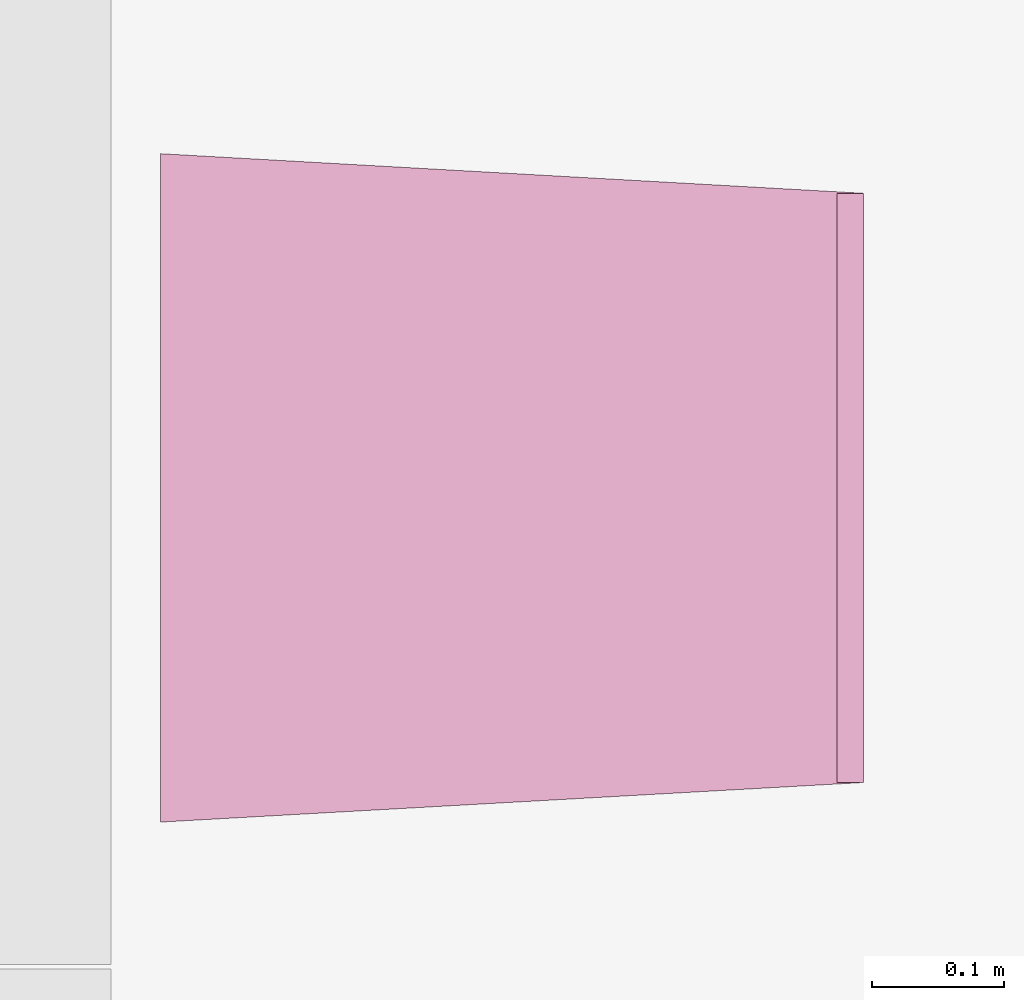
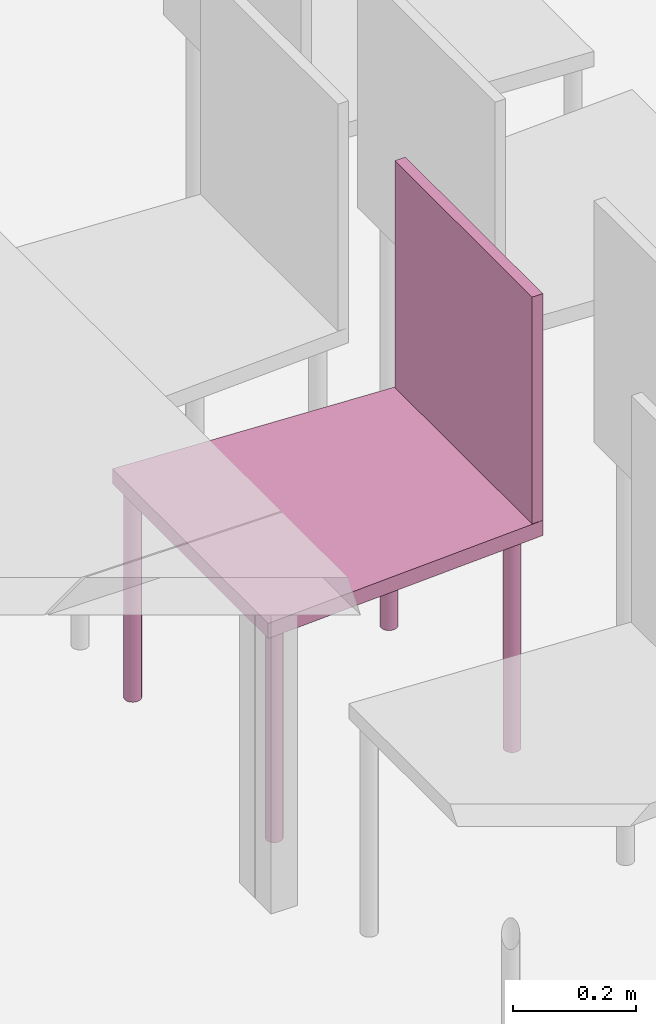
"""IFC4 building model written with IfcOpenShell, lengths in metres."""

import ifcopenshell
import ifcopenshell.guid

model = None  # the IFC model being written
_history = None  # IfcOwnerHistory: only IFC2X3 demands one
_inside = {}  # id of a spatial element -> (the spatial element, [elements in it])
_under = {}  # id of a project, library or spatial element -> (it, [spatial elements below it])
_declared = {}  # id of a project -> (the project, [libraries it declares])
_typed = {}  # id of a type object -> (the type object, [elements of that type])
_made_of = {}  # id of a material, layer set ... -> (it, [elements and type objects made of it])


def new_model(schema):
    """Start an empty IFC model of exactly this schema.

    Asked for "IFC4X3", IfcOpenShell would pick the latest addendum, in which some entities
    have other attributes; the version numbers below select the first issue.
    IFC2X3 requires an IfcOwnerHistory on every rooted entity: one is made here for all.
    """
    global model, _history
    if schema == "IFC4X3":
        model = ifcopenshell.file(schema_version=(4, 3, 0, 0))
    else:
        model = ifcopenshell.file(schema=schema)
    _inside.clear()
    _under.clear()
    _declared.clear()
    _typed.clear()
    _made_of.clear()
    _history = None
    if model.schema == "IFC2X3":
        org = make("IfcOrganization", Name="unknown")
        user = make(
            "IfcPersonAndOrganization",
            ThePerson=make("IfcPerson", FamilyName="unknown"),
            TheOrganization=org,
        )
        app = make(
            "IfcApplication",
            ApplicationDeveloper=org,
            Version="unknown",
            ApplicationFullName="unknown",
            ApplicationIdentifier="unknown",
        )
        _history = make(
            "IfcOwnerHistory",
            OwningUser=user,
            OwningApplication=app,
            ChangeAction="ADDED",
            CreationDate=0,
        )
    return model


def make(cls, **values):
    """One entity of the class cls with the attributes given. An attribute that is None is left unset."""
    return model.create_entity(
        cls, **{name: value for name, value in values.items() if value is not None}
    )


def entity(cls, *values):
    """Any entity or typed value of the class cls, its attributes in the order of the schema. None: left unset."""
    e = model.create_entity(cls)
    for i, value in enumerate(values):
        if value is not None:
            e[i] = value
    return e


def rooted(cls, **values):
    """An entity with a GlobalId (a new one), such as an element, a storey or a relation."""
    return make(cls, GlobalId=ifcopenshell.guid.new(), OwnerHistory=_history, **values)


def si_unit(unit_type, name, prefix=None):
    """IfcSIUnit, for example si_unit("LENGTHUNIT", "METRE", prefix="MILLI")."""
    return make("IfcSIUnit", UnitType=unit_type, Prefix=prefix, Name=name)


def converted_unit(unit_type, name, factor, base, dimensions=None, offset=None):
    """IfcConversionBasedUnit, such as the inch: factor (a typed value) times the base unit."""
    return make(
        "IfcConversionBasedUnit"
        if offset is None
        else "IfcConversionBasedUnitWithOffset",
        ConversionOffset=offset,
        Dimensions=None
        if dimensions is None
        else entity("IfcDimensionalExponents", *dimensions),
        UnitType=unit_type,
        Name=name,
        ConversionFactor=make(
            "IfcMeasureWithUnit", ValueComponent=factor, UnitComponent=base
        ),
    )


def derived_unit(unit_type, elements):
    """IfcDerivedUnit: a product of units, each with its exponent."""
    return make(
        "IfcDerivedUnit",
        Elements=[
            make("IfcDerivedUnitElement", Unit=unit, Exponent=power)
            for unit, power in elements
        ],
        UnitType=unit_type,
    )


def assignment(units):
    """IfcUnitAssignment: the units of a project."""
    return None if units is None else make("IfcUnitAssignment", Units=units)


def point(xyz):
    """IfcCartesianPoint."""
    return None if xyz is None else make("IfcCartesianPoint", Coordinates=xyz)


def direction(xyz):
    """IfcDirection."""
    return None if xyz is None else make("IfcDirection", DirectionRatios=xyz)


def frame(location, z_axis=None, x_axis=None):
    """IfcAxis2Placement3D, a coordinate frame: its origin and axes. An axis left out is left unset."""
    return make(
        "IfcAxis2Placement3D",
        Location=point(location),
        Axis=direction(z_axis),
        RefDirection=direction(x_axis),
    )


def origin():
    """The frame at (0, 0, 0) with its axes left unset."""
    return frame((0.0, 0.0, 0.0))


def place(relative_to, where):
    """IfcLocalPlacement: puts the frame where relative to a parent placement (None: the world)."""
    return make(
        "IfcLocalPlacement", PlacementRelTo=relative_to, RelativePlacement=where
    )


def context(
    kind, dimensions, precision=None, world=None, true_north=None, identifier=None
):
    """IfcGeometricRepresentationContext, for example the 3D "Model" context."""
    return make(
        "IfcGeometricRepresentationContext",
        ContextIdentifier=identifier,
        ContextType=kind,
        CoordinateSpaceDimension=dimensions,
        Precision=precision,
        WorldCoordinateSystem=world,
        TrueNorth=true_north,
    )


def subcontext(parent, identifier, kind, view, scale=None):
    """IfcGeometricRepresentationSubContext, for example "Body" below "Model"."""
    return make(
        "IfcGeometricRepresentationSubContext",
        ContextIdentifier=identifier,
        ContextType=kind,
        ParentContext=parent,
        TargetScale=scale,
        TargetView=view,
    )


def project(units=None, contexts=None):
    """IfcProject with its units and contexts."""
    return rooted(
        "IfcProject",
        Name="project",
        RepresentationContexts=contexts,
        UnitsInContext=assignment(units),
    )


def spatial(cls, under=None, at=None, **own):
    """A site, building, storey or space (cls), placed at a placement, below another one or the project."""
    s = rooted(cls, ObjectPlacement=at, **own)
    if under is not None:
        _under.setdefault(under.id(), (under, []))[1].append(s)
    return s


def faces_of(points, faces, orient=None, outer=None):
    """IfcFace entities. A face is a list of loops; a loop is a list of indices into points, from 0.

    orient and outer hold one flag for each loop. By default every Orientation is true, the
    first loop of a face is its IfcFaceOuterBound and the others are IfcFaceBound.
    """
    made = []
    for i, loops in enumerate(faces):
        bounds = []
        for j, loop in enumerate(loops):
            is_outer = j == 0 if outer is None else outer[i][j]
            bounds.append(
                make(
                    "IfcFaceOuterBound" if is_outer else "IfcFaceBound",
                    Bound=make("IfcPolyLoop", Polygon=[points[k] for k in loop]),
                    Orientation=True if orient is None else orient[i][j],
                )
            )
        made.append(make("IfcFace", Bounds=bounds))
    return made


def faceted_brep(points, faces, orient=None, outer=None, voids=None):
    """IfcFacetedBrep: a solid bounded by flat faces; with voids (closed shells), ...WithVoids."""
    shared = [point(p) for p in points]
    hull = make("IfcClosedShell", CfsFaces=faces_of(shared, faces, orient, outer))
    if voids is None:
        return make("IfcFacetedBrep", Outer=hull)
    return make(
        "IfcFacetedBrepWithVoids",
        Outer=hull,
        Voids=[
            make(cls, CfsFaces=faces_of(shared, fs, o, b)) for cls, fs, o, b in voids
        ],
    )


def shape(context_of_items, identifier, shape_type, items):
    """IfcShapeRepresentation: the items that make up one representation, for example the "Body"."""
    return make(
        "IfcShapeRepresentation",
        ContextOfItems=context_of_items,
        RepresentationIdentifier=identifier,
        RepresentationType=shape_type,
        Items=items,
    )


def made_of(thing, what):
    """Note that an element or type object is made of a material, layer set ...; save() writes the relation."""
    if what is not None:
        _made_of.setdefault(what.id(), (what, []))[1].append(thing)
    return thing


def element(
    cls,
    number,
    at=None,
    inside=None,
    cuts=None,
    type_object=None,
    material=None,
    context=None,
    identifier="Body",
    shape_type=None,
    held_by="IfcProductDefinitionShape",
    body=None,
    shapes=None,
    **own,
):
    """One element of the class cls, such as IfcWall. Its Tag is "e" and its number.

    at: its placement. inside: the storey or other place that contains it. cuts: it is an
    opening in that element (IfcRelVoidsElement). A single representation is given by context,
    identifier, shape_type and body (its items); several are given by shapes. held_by: the class
    of the entity that holds the representations. save() writes the other relations.
    """
    e = rooted(cls, Tag="e%d" % number, ObjectPlacement=at, **own)
    if body is not None:
        shapes = [shape(context, identifier, shape_type, body)]
    if shapes is not None:
        e.Representation = make(held_by, Representations=shapes)
    if inside is not None:
        _inside.setdefault(inside.id(), (inside, []))[1].append(e)
    if cuts is not None:
        rooted(
            "IfcRelVoidsElement", RelatingBuildingElement=cuts, RelatedOpeningElement=e
        )
    if type_object is not None:
        _typed.setdefault(type_object.id(), (type_object, []))[1].append(e)
    return made_of(e, material)


def aggregate(whole, parts):
    """IfcRelAggregates: a whole, such as a stair, and the parts it consists of."""
    return rooted("IfcRelAggregates", RelatingObject=whole, RelatedObjects=parts)


def save(model, path):
    """Write the relations noted so far, then the file.

    IfcRelAggregates (storeys below a building ...), IfcRelContainedInSpatialStructure (elements
    in a storey), IfcRelDefinesByType, IfcRelAssociatesMaterial and IfcRelDeclares: one each for
    every whole, place, type object, material and project.
    """
    for whole, parts in _under.values():
        aggregate(whole, parts)
    for where, things in _inside.values():
        rooted(
            "IfcRelContainedInSpatialStructure",
            RelatedElements=things,
            RelatingStructure=where,
        )
    for kind, things in _typed.values():
        rooted("IfcRelDefinesByType", RelatedObjects=things, RelatingType=kind)
    for what, things in _made_of.values():
        rooted("IfcRelAssociatesMaterial", RelatedObjects=things, RelatingMaterial=what)
    for by, libraries in _declared.values():
        rooted("IfcRelDeclares", RelatingContext=by, RelatedDefinitions=libraries)
    model.write(path)


model = new_model("IFC4")

# Units and contexts
model_context = context("Model", 3, precision=1e-05, world=origin())
body_context = subcontext(model_context, "Body", "Model", "MODEL_VIEW")
ifc_project = project(units=[si_unit("LENGTHUNIT", "METRE"), si_unit("AREAUNIT", "SQUARE_METRE"), si_unit("VOLUMEUNIT", "CUBIC_METRE"), si_unit("MASSUNIT", "GRAM", prefix="KILO"), converted_unit("PLANEANGLEUNIT", "DEGREE", entity("IfcPlaneAngleMeasure", 0.0174532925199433), si_unit("PLANEANGLEUNIT", "RADIAN"), dimensions=[0, 0, 0, 0, 0, 0, 0]), derived_unit("THERMALTRANSMITTANCEUNIT", [(si_unit("POWERUNIT", "WATT"), 1), (si_unit("THERMODYNAMICTEMPERATUREUNIT", "KELVIN"), -1), (si_unit("LENGTHUNIT", "METRE"), -2)]), derived_unit("VOLUMETRICFLOWRATEUNIT", [(si_unit("LENGTHUNIT", "METRE"), 3), (converted_unit("TIMEUNIT", "hour", entity("IfcTimeMeasure", 3600.0), si_unit("TIMEUNIT", "SECOND"), dimensions=[0, 0, 1, 0, 0, 0, 0]), -1), (si_unit("LENGTHUNIT", "METRE"), -1)])], contexts=[model_context])

# Building, storeys
building_placement = place(None, origin())
building = spatial("IfcBuilding", under=ifc_project, at=building_placement, Name="HABITATGE PLURIFAMILIAR", CompositionType="ELEMENT")
storey_1_placement = place(building_placement, frame((0.0, 0.0, 3.35)))
storey_1 = spatial("IfcBuildingStorey", under=building, at=storey_1_placement, Name="PLANTA  ALTELL", CompositionType="ELEMENT", Elevation=3.35)
storey_2_placement = place(storey_1_placement, origin())
storey_2 = spatial("IfcBuildingStorey", under=storey_1, at=storey_2_placement, Name="NOU", CompositionType="PARTIAL")

# Furniture
furniture_placement = place(storey_2_placement, frame((400.719669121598, 15.6707290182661, 0.0499839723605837)))
element("IfcFurniture", 1, at=furniture_placement, inside=storey_2, Name="Cadira confident_PA", context=body_context, shape_type="Brep", body=[
    faceted_brep([(0.0250324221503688, 0.0391636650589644, 0.0), (0.0224394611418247, 0.0389254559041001, 0.0), (0.0199272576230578, 0.038240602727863, 0.0), (0.0175721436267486, 0.0371299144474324, 0.0), (0.0154456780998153, 0.0356271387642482, 0.0), (0.0136124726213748, 0.0337779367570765, 0.0), (0.0121282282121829, 0.0316384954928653, 0.0), (0.0110380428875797, 0.0292738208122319, 0.0), (0.010375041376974, 0.0267557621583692, 0.0), (0.0101593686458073, 0.0241608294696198, 0.0), (0.010397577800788, 0.0215678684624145, 0.0), (0.0110824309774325, 0.0190556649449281, 0.0), (0.0121931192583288, 0.0167005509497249, 0.0), (0.0136958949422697, 0.0145740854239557, 0.0), (0.0155450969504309, 0.0127408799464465, 0.0), (0.0176845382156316, 0.0112566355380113, 0.0), (0.0200492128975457, 0.010166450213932, 0.0), (0.0225672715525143, 0.00950344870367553, 0.0), (0.0251622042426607, 0.00928777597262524, 0.0), (0.0277551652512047, 0.00952598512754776, 0.0), (0.0302673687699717, 0.0102108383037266, 0.0), (0.0326224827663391, 0.0113215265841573, 0.0), (0.0347489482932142, 0.0128243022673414, 0.0), (0.0365821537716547, 0.0146735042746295, 0.0), (0.0380663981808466, 0.0168129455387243, 0.0), (0.0391565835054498, 0.019177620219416, 0.0), (0.0398195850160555, 0.0216956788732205, 0.0), (0.0400352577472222, 0.0242906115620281, 0.0), (0.0397970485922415, 0.0268835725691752, 0.0), (0.0391121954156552, 0.0293957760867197, 0.0), (0.0380015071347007, 0.0317508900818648, 0.0), (0.0364987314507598, 0.0338773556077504, 0.0), (0.0346495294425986, 0.0357105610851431, 0.0), (0.0325100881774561, 0.0371948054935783, 0.0), (0.030145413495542, 0.0382849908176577, 0.0), (0.0276273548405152, 0.0389479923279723, 0.0), (0.0250324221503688, 0.0391636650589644, 0.448281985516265), (0.0276273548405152, 0.0389479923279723, 0.448281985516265), (0.030145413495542, 0.0382849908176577, 0.448281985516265), (0.0325100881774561, 0.0371948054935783, 0.448281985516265), (0.0346495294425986, 0.0357105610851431, 0.448281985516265), (0.0364987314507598, 0.0338773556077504, 0.448281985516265), (0.0380015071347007, 0.0317508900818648, 0.448281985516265), (0.0391121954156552, 0.0293957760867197, 0.448281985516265), (0.0397970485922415, 0.0268835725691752, 0.448281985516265), (0.0400352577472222, 0.0242906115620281, 0.448281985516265), (0.0398195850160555, 0.0216956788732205, 0.448281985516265), (0.0391565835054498, 0.019177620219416, 0.448281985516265), (0.0380663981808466, 0.0168129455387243, 0.448281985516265), (0.0365821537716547, 0.0146735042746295, 0.448281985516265), (0.0347489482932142, 0.0128243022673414, 0.448281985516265), (0.0326224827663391, 0.0113215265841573, 0.448281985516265), (0.0302673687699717, 0.0102108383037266, 0.448281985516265), (0.0277551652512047, 0.00952598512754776, 0.448281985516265), (0.0251622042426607, 0.00928777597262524, 0.448281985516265), (0.0225672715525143, 0.00950344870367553, 0.448281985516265), (0.0200492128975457, 0.010166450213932, 0.448281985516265), (0.0176845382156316, 0.0112566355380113, 0.448281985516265), (0.0155450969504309, 0.0127408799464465, 0.448281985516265), (0.0136958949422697, 0.0145740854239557, 0.448281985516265), (0.0121931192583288, 0.0167005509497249, 0.448281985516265), (0.0110824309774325, 0.0190556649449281, 0.448281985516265), (0.010397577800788, 0.0215678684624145, 0.448281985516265), (0.0101593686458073, 0.0241608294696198, 0.448281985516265), (0.010375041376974, 0.0267557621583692, 0.448281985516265), (0.0110380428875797, 0.0292738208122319, 0.448281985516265), (0.0121282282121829, 0.0316384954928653, 0.448281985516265), (0.0136124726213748, 0.0337779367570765, 0.448281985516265), (0.0154456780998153, 0.0356271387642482, 0.448281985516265), (0.0175721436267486, 0.0371299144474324, 0.448281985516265), (0.0199272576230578, 0.038240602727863, 0.448281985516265), (0.0224394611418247, 0.0389254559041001, 0.448281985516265)], [[[0, 1, 2, 3, 4, 5, 6, 7, 8, 9, 10, 11, 12, 13, 14, 15, 16, 17, 18, 19, 20, 21, 22, 23, 24, 25, 26, 27, 28, 29, 30, 31, 32, 33, 34, 35]], [[36, 37, 38, 39, 40, 41, 42, 43, 44, 45, 46, 47, 48, 49, 50, 51, 52, 53, 54, 55, 56, 57, 58, 59, 60, 61, 62, 63, 64, 65, 66, 67, 68, 69, 70, 71]], [[35, 37, 36, 0]], [[34, 38, 37, 35]], [[33, 39, 38, 34]], [[32, 40, 39, 33]], [[31, 41, 40, 32]], [[30, 42, 41, 31]], [[29, 43, 42, 30]], [[28, 44, 43, 29]], [[27, 45, 44, 28]], [[26, 46, 45, 27]], [[25, 47, 46, 26]], [[24, 48, 47, 25]], [[23, 49, 48, 24]], [[22, 50, 49, 23]], [[21, 51, 50, 22]], [[20, 52, 51, 21]], [[19, 53, 52, 20]], [[18, 54, 53, 19]], [[17, 55, 54, 18]], [[16, 56, 55, 17]], [[15, 57, 56, 16]], [[14, 58, 57, 15]], [[13, 59, 58, 14]], [[12, 60, 59, 13]], [[11, 61, 60, 12]], [[10, 62, 61, 11]], [[9, 63, 62, 10]], [[8, 64, 63, 9]], [[7, 65, 64, 8]], [[6, 66, 65, 7]], [[5, 67, 66, 6]], [[4, 68, 67, 5]], [[3, 69, 68, 4]], [[2, 70, 69, 3]], [[1, 71, 70, 2]], [[0, 36, 71, 1]]], orient=[[False], [False], [False], [False], [False], [False], [False], [False], [False], [False], [False], [False], [False], [False], [False], [False], [False], [False], [False], [False], [False], [False], [False], [False], [False], [False], [False], [False], [False], [False], [False], [False], [False], [False], [False], [False], [False], [False]]),
    faceted_brep([(0.487439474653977, 0.0668016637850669, 0.0), (0.484846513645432, 0.0665634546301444, 0.0), (0.482334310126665, 0.0658786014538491, 0.0), (0.479979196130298, 0.0647679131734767, 0.0), (0.477852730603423, 0.0632651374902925, 0.0), (0.476019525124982, 0.0614159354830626, 0.0), (0.474535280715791, 0.0592764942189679, 0.0), (0.473445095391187, 0.056911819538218, 0.0), (0.472782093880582, 0.0543937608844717, 0.0), (0.472566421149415, 0.0517988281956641, 0.0), (0.472804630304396, 0.0492058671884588, 0.0), (0.473489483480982, 0.0466936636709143, 0.0), (0.474600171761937, 0.0443385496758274, 0.0), (0.476102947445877, 0.0422120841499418, 0.0), (0.477952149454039, 0.0403788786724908, 0.0), (0.480091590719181, 0.0388946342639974, 0.0), (0.482456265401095, 0.0378044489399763, 0.0), (0.484974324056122, 0.0371414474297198, 0.0), (0.487569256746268, 0.0369257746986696, 0.0), (0.490162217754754, 0.0371639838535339, 0.0), (0.492674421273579, 0.0378488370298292, 0.0), (0.495029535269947, 0.0389595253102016, 0.0), (0.497156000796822, 0.0404623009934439, 0.0), (0.498989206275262, 0.0423115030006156, 0.0), (0.500473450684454, 0.0444509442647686, 0.0), (0.501563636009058, 0.0468156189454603, 0.0), (0.502226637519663, 0.0493336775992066, 0.0), (0.50244231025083, 0.0519286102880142, 0.0), (0.502204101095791, 0.0545215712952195, 0.0), (0.501519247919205, 0.057033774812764, 0.0), (0.500408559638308, 0.0593888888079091, 0.0), (0.498905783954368, 0.0615153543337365, 0.0), (0.497056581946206, 0.0633485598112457, 0.0), (0.494917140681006, 0.0648328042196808, 0.0), (0.492552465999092, 0.065922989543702, 0.0), (0.490034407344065, 0.0665859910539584, 0.0), (0.487439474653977, 0.0668016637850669, 0.448281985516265), (0.490034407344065, 0.0665859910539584, 0.448281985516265), (0.492552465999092, 0.065922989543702, 0.448281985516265), (0.494917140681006, 0.0648328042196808, 0.448281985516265), (0.497056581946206, 0.0633485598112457, 0.448281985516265), (0.498905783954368, 0.0615153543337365, 0.448281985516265), (0.500408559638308, 0.0593888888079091, 0.448281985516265), (0.501519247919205, 0.057033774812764, 0.448281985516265), (0.502204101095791, 0.0545215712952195, 0.448281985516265), (0.50244231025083, 0.0519286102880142, 0.448281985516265), (0.502226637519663, 0.0493336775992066, 0.448281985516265), (0.501563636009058, 0.0468156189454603, 0.448281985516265), (0.500473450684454, 0.0444509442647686, 0.448281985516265), (0.498989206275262, 0.0423115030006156, 0.448281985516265), (0.497156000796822, 0.0404623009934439, 0.448281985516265), (0.495029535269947, 0.0389595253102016, 0.448281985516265), (0.492674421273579, 0.0378488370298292, 0.448281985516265), (0.490162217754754, 0.0371639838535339, 0.448281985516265), (0.487569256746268, 0.0369257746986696, 0.448281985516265), (0.484974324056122, 0.0371414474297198, 0.448281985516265), (0.482456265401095, 0.0378044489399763, 0.448281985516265), (0.480091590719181, 0.0388946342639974, 0.448281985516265), (0.477952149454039, 0.0403788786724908, 0.448281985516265), (0.476102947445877, 0.0422120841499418, 0.448281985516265), (0.474600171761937, 0.0443385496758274, 0.448281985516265), (0.473489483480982, 0.0466936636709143, 0.448281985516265), (0.472804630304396, 0.0492058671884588, 0.448281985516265), (0.472566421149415, 0.0517988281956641, 0.448281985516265), (0.472782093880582, 0.0543937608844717, 0.448281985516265), (0.473445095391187, 0.056911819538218, 0.448281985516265), (0.474535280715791, 0.0592764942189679, 0.448281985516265), (0.476019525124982, 0.0614159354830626, 0.448281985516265), (0.477852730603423, 0.0632651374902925, 0.448281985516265), (0.479979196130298, 0.0647679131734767, 0.448281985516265), (0.482334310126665, 0.0658786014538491, 0.448281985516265), (0.484846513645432, 0.0665634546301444, 0.448281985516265)], [[[0, 1, 2, 3, 4, 5, 6, 7, 8, 9, 10, 11, 12, 13, 14, 15, 16, 17, 18, 19, 20, 21, 22, 23, 24, 25, 26, 27, 28, 29, 30, 31, 32, 33, 34, 35]], [[36, 37, 38, 39, 40, 41, 42, 43, 44, 45, 46, 47, 48, 49, 50, 51, 52, 53, 54, 55, 56, 57, 58, 59, 60, 61, 62, 63, 64, 65, 66, 67, 68, 69, 70, 71]], [[35, 37, 36, 0]], [[34, 38, 37, 35]], [[33, 39, 38, 34]], [[32, 40, 39, 33]], [[31, 41, 40, 32]], [[30, 42, 41, 31]], [[29, 43, 42, 30]], [[28, 44, 43, 29]], [[27, 45, 44, 28]], [[26, 46, 45, 27]], [[25, 47, 46, 26]], [[24, 48, 47, 25]], [[23, 49, 48, 24]], [[22, 50, 49, 23]], [[21, 51, 50, 22]], [[20, 52, 51, 21]], [[19, 53, 52, 20]], [[18, 54, 53, 19]], [[17, 55, 54, 18]], [[16, 56, 55, 17]], [[15, 57, 56, 16]], [[14, 58, 57, 15]], [[13, 59, 58, 14]], [[12, 60, 59, 13]], [[11, 61, 60, 12]], [[10, 62, 61, 11]], [[9, 63, 62, 10]], [[8, 64, 63, 9]], [[7, 65, 64, 8]], [[6, 66, 65, 7]], [[5, 67, 66, 6]], [[4, 68, 67, 5]], [[3, 69, 68, 4]], [[2, 70, 69, 3]], [[1, 71, 70, 2]], [[0, 36, 71, 1]]], orient=[[False], [False], [False], [False], [False], [False], [False], [False], [False], [False], [False], [False], [False], [False], [False], [False], [False], [False], [False], [False], [False], [False], [False], [False], [False], [False], [False], [False], [False], [False], [False], [False], [False], [False], [False], [False], [False], [False]]),
    faceted_brep([(0.0250324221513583, 0.499163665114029, 0.0), (0.0224394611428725, 0.498925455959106, 0.0), (0.0199272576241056, 0.498240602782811, 0.0), (0.0175721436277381, 0.497129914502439, 0.0), (0.0154456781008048, 0.495627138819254, 0.0), (0.0136124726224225, 0.493777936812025, 0.0), (0.0121282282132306, 0.491638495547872, 0.0), (0.0110380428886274, 0.489273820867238, 0.0), (0.0103750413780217, 0.486755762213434, 0.0), (0.0101593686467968, 0.484160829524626, 0.0), (0.0103975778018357, 0.481567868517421, 0.0), (0.0110824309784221, 0.479055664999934, 0.0), (0.0121931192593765, 0.476700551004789, 0.0), (0.0136958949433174, 0.474574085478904, 0.0), (0.0155450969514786, 0.472740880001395, 0.0), (0.0176845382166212, 0.471256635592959, 0.0), (0.0200492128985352, 0.470166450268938, 0.0), (0.022567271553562, 0.469503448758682, 0.0), (0.0251622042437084, 0.469287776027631, 0.0), (0.0277551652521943, 0.469525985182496, 0.0), (0.0302673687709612, 0.470210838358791, 0.0), (0.0326224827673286, 0.471321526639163, 0.0), (0.0347489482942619, 0.472824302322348, 0.0), (0.0365821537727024, 0.474673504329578, 0.0), (0.0380663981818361, 0.476812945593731, 0.0), (0.0391565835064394, 0.479177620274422, 0.0), (0.039819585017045, 0.481695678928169, 0.0), (0.0400352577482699, 0.484290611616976, 0.0), (0.039797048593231, 0.486883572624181, 0.0), (0.0391121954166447, 0.489395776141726, 0.0), (0.0380015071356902, 0.491750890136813, 0.0), (0.0364987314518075, 0.493877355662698, 0.0), (0.0346495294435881, 0.495710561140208, 0.0), (0.0325100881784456, 0.497194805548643, 0.0), (0.0301454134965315, 0.498284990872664, 0.0), (0.0276273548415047, 0.49894799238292, 0.0), (0.0250324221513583, 0.499163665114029, 0.448281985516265), (0.0276273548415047, 0.49894799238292, 0.448281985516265), (0.0301454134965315, 0.498284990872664, 0.448281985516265), (0.0325100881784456, 0.497194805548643, 0.448281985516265), (0.0346495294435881, 0.495710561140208, 0.448281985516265), (0.0364987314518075, 0.493877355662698, 0.448281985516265), (0.0380015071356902, 0.491750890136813, 0.448281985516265), (0.0391121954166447, 0.489395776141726, 0.448281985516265), (0.039797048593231, 0.486883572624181, 0.448281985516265), (0.0400352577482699, 0.484290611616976, 0.448281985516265), (0.039819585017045, 0.481695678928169, 0.448281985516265), (0.0391565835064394, 0.479177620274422, 0.448281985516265), (0.0380663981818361, 0.476812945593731, 0.448281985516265), (0.0365821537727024, 0.474673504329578, 0.448281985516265), (0.0347489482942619, 0.472824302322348, 0.448281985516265), (0.0326224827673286, 0.471321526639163, 0.448281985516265), (0.0302673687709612, 0.470210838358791, 0.448281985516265), (0.0277551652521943, 0.469525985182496, 0.448281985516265), (0.0251622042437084, 0.469287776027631, 0.448281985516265), (0.022567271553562, 0.469503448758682, 0.448281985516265), (0.0200492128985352, 0.470166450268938, 0.448281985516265), (0.0176845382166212, 0.471256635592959, 0.448281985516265), (0.0155450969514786, 0.472740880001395, 0.448281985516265), (0.0136958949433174, 0.474574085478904, 0.448281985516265), (0.0121931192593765, 0.476700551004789, 0.448281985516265), (0.0110824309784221, 0.479055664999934, 0.448281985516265), (0.0103975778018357, 0.481567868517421, 0.448281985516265), (0.0101593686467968, 0.484160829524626, 0.448281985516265), (0.0103750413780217, 0.486755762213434, 0.448281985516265), (0.0110380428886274, 0.489273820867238, 0.448281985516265), (0.0121282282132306, 0.491638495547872, 0.448281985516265), (0.0136124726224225, 0.493777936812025, 0.448281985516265), (0.0154456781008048, 0.495627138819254, 0.448281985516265), (0.0175721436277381, 0.497129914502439, 0.448281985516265), (0.0199272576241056, 0.498240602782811, 0.448281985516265), (0.0224394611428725, 0.498925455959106, 0.448281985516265)], [[[0, 1, 2, 3, 4, 5, 6, 7, 8, 9, 10, 11, 12, 13, 14, 15, 16, 17, 18, 19, 20, 21, 22, 23, 24, 25, 26, 27, 28, 29, 30, 31, 32, 33, 34, 35]], [[36, 37, 38, 39, 40, 41, 42, 43, 44, 45, 46, 47, 48, 49, 50, 51, 52, 53, 54, 55, 56, 57, 58, 59, 60, 61, 62, 63, 64, 65, 66, 67, 68, 69, 70, 71]], [[35, 37, 36, 0]], [[34, 38, 37, 35]], [[33, 39, 38, 34]], [[32, 40, 39, 33]], [[31, 41, 40, 32]], [[30, 42, 41, 31]], [[29, 43, 42, 30]], [[28, 44, 43, 29]], [[27, 45, 44, 28]], [[26, 46, 45, 27]], [[25, 47, 46, 26]], [[24, 48, 47, 25]], [[23, 49, 48, 24]], [[22, 50, 49, 23]], [[21, 51, 50, 22]], [[20, 52, 51, 21]], [[19, 53, 52, 20]], [[18, 54, 53, 19]], [[17, 55, 54, 18]], [[16, 56, 55, 17]], [[15, 57, 56, 16]], [[14, 58, 57, 15]], [[13, 59, 58, 14]], [[12, 60, 59, 13]], [[11, 61, 60, 12]], [[10, 62, 61, 11]], [[9, 63, 62, 10]], [[8, 64, 63, 9]], [[7, 65, 64, 8]], [[6, 66, 65, 7]], [[5, 67, 66, 6]], [[4, 68, 67, 5]], [[3, 69, 68, 4]], [[2, 70, 69, 3]], [[1, 71, 70, 2]], [[0, 36, 71, 1]]], orient=[[False], [False], [False], [False], [False], [False], [False], [False], [False], [False], [False], [False], [False], [False], [False], [False], [False], [False], [False], [False], [False], [False], [False], [False], [False], [False], [False], [False], [False], [False], [False], [False], [False], [False], [False], [False], [False], [False]]),
    faceted_brep([(0.48743947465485, 0.466801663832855, 0.0), (0.484846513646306, 0.466563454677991, 0.0), (0.482334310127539, 0.465878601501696, 0.0), (0.479979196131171, 0.464767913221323, 0.0), (0.477852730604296, 0.463265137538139, 0.0), (0.476019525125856, 0.461415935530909, 0.0), (0.474535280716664, 0.459276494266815, 0.0), (0.47344509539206, 0.456911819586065, 0.0), (0.472782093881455, 0.454393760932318, 0.0), (0.472566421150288, 0.451798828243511, 0.0), (0.472804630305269, 0.449205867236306, 0.0), (0.473489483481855, 0.446693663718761, 0.0), (0.47460017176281, 0.444338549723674, 0.0), (0.47610294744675, 0.442212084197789, 0.0), (0.477952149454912, 0.440378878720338, 0.0), (0.480091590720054, 0.438894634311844, 0.0), (0.482456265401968, 0.437804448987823, 0.0), (0.484974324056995, 0.437141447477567, 0.0), (0.487569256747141, 0.436925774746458, 0.0), (0.490162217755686, 0.437163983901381, 0.0), (0.492674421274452, 0.437848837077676, 0.0), (0.495029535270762, 0.438959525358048, 0.0), (0.497156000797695, 0.440462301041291, 0.0), (0.498989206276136, 0.442311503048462, 0.0), (0.500473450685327, 0.444450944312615, 0.0), (0.501563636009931, 0.446815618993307, 0.0), (0.502226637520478, 0.449333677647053, 0.0), (0.502442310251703, 0.451928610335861, 0.0), (0.502204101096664, 0.454521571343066, 0.0), (0.501519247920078, 0.457033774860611, 0.0), (0.500408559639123, 0.459388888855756, 0.0), (0.498905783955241, 0.461515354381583, 0.0), (0.497056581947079, 0.463348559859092, 0.0), (0.494917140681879, 0.464832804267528, 0.0), (0.492552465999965, 0.465922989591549, 0.0), (0.490034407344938, 0.466585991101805, 0.0), (0.48743947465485, 0.466801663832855, 0.448281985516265), (0.490034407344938, 0.466585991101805, 0.448281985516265), (0.492552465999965, 0.465922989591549, 0.448281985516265), (0.494917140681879, 0.464832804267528, 0.448281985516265), (0.497056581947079, 0.463348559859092, 0.448281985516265), (0.498905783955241, 0.461515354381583, 0.448281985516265), (0.500408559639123, 0.459388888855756, 0.448281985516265), (0.501519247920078, 0.457033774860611, 0.448281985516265), (0.502204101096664, 0.454521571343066, 0.448281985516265), (0.502442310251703, 0.451928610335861, 0.448281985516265), (0.502226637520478, 0.449333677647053, 0.448281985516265), (0.501563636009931, 0.446815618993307, 0.448281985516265), (0.500473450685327, 0.444450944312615, 0.448281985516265), (0.498989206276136, 0.442311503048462, 0.448281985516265), (0.497156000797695, 0.440462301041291, 0.448281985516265), (0.495029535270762, 0.438959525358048, 0.448281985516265), (0.492674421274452, 0.437848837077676, 0.448281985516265), (0.490162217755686, 0.437163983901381, 0.448281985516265), (0.487569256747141, 0.436925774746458, 0.448281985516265), (0.484974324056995, 0.437141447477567, 0.448281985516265), (0.482456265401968, 0.437804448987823, 0.448281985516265), (0.480091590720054, 0.438894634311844, 0.448281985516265), (0.477952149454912, 0.440378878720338, 0.448281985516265), (0.47610294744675, 0.442212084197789, 0.448281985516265), (0.47460017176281, 0.444338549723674, 0.448281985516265), (0.473489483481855, 0.446693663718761, 0.448281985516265), (0.472804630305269, 0.449205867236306, 0.448281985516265), (0.472566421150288, 0.451798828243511, 0.448281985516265), (0.472782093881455, 0.454393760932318, 0.448281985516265), (0.47344509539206, 0.456911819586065, 0.448281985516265), (0.474535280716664, 0.459276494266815, 0.448281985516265), (0.476019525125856, 0.461415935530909, 0.448281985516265), (0.477852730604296, 0.463265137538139, 0.448281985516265), (0.479979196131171, 0.464767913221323, 0.448281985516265), (0.482334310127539, 0.465878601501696, 0.448281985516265), (0.484846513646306, 0.466563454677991, 0.448281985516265)], [[[0, 1, 2, 3, 4, 5, 6, 7, 8, 9, 10, 11, 12, 13, 14, 15, 16, 17, 18, 19, 20, 21, 22, 23, 24, 25, 26, 27, 28, 29, 30, 31, 32, 33, 34, 35]], [[36, 37, 38, 39, 40, 41, 42, 43, 44, 45, 46, 47, 48, 49, 50, 51, 52, 53, 54, 55, 56, 57, 58, 59, 60, 61, 62, 63, 64, 65, 66, 67, 68, 69, 70, 71]], [[35, 37, 36, 0]], [[34, 38, 37, 35]], [[33, 39, 38, 34]], [[32, 40, 39, 33]], [[31, 41, 40, 32]], [[30, 42, 41, 31]], [[29, 43, 42, 30]], [[28, 44, 43, 29]], [[27, 45, 44, 28]], [[26, 46, 45, 27]], [[25, 47, 46, 26]], [[24, 48, 47, 25]], [[23, 49, 48, 24]], [[22, 50, 49, 23]], [[21, 51, 50, 22]], [[20, 52, 51, 21]], [[19, 53, 52, 20]], [[18, 54, 53, 19]], [[17, 55, 54, 18]], [[16, 56, 55, 17]], [[15, 57, 56, 16]], [[14, 58, 57, 15]], [[13, 59, 58, 14]], [[12, 60, 59, 13]], [[11, 61, 60, 12]], [[10, 62, 61, 11]], [[9, 63, 62, 10]], [[8, 64, 63, 9]], [[7, 65, 64, 8]], [[6, 66, 65, 7]], [[5, 67, 66, 6]], [[4, 68, 67, 5]], [[3, 69, 68, 4]], [[2, 70, 69, 3]], [[1, 71, 70, 2]], [[0, 36, 71, 1]]], orient=[[False], [False], [False], [False], [False], [False], [False], [False], [False], [False], [False], [False], [False], [False], [False], [False], [False], [False], [False], [False], [False], [False], [False], [False], [False], [False], [False], [False], [False], [False], [False], [False], [False], [False], [False], [False], [False], [False]]),
    faceted_brep([(0.532607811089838, 0.476514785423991, 0.418281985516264), (0.0, 0.506514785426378, 0.418281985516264), (0.0, 0.0, 0.418281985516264), (0.532607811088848, 0.0300000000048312, 0.418281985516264), (0.0, 0.506514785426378, 0.448281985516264), (0.532607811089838, 0.476514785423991, 0.448281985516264), (0.532607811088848, 0.0300000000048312, 0.448281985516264), (0.0, 0.0, 0.448281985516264)], [[[0, 1, 2, 3]], [[4, 5, 6, 7]], [[1, 0, 5, 4]], [[2, 1, 4, 7]], [[3, 2, 7, 6]], [[0, 3, 6, 5]]], orient=[[False], [False], [False], [False], [False], [False]]),
    faceted_brep([(0.512607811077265, 0.476514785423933, 0.448281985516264), (0.512607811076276, 0.0300000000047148, 0.448281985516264), (0.53260781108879, 0.0300000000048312, 0.448281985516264), (0.53260781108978, 0.476514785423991, 0.448281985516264), (0.512607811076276, 0.0300000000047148, 0.898281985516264), (0.512607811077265, 0.476514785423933, 0.898281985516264), (0.53260781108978, 0.476514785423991, 0.898281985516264), (0.53260781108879, 0.0300000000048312, 0.898281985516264)], [[[0, 1, 2, 3]], [[4, 5, 6, 7]], [[1, 0, 5, 4]], [[2, 1, 4, 7]], [[3, 2, 7, 6]], [[0, 3, 6, 5]]], orient=[[False], [False], [False], [False], [False], [False]]),
])

save(model, "model.ifc")
